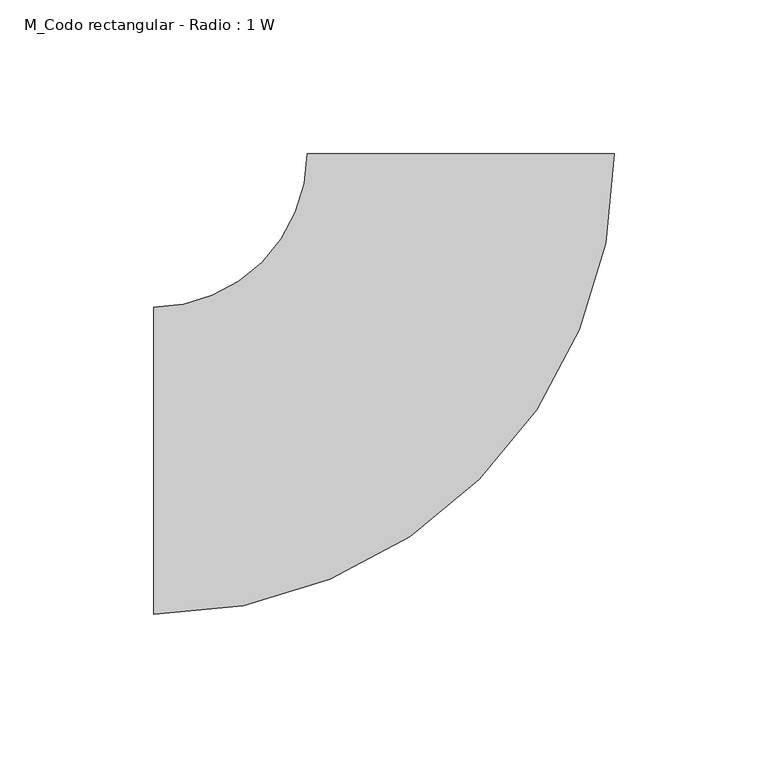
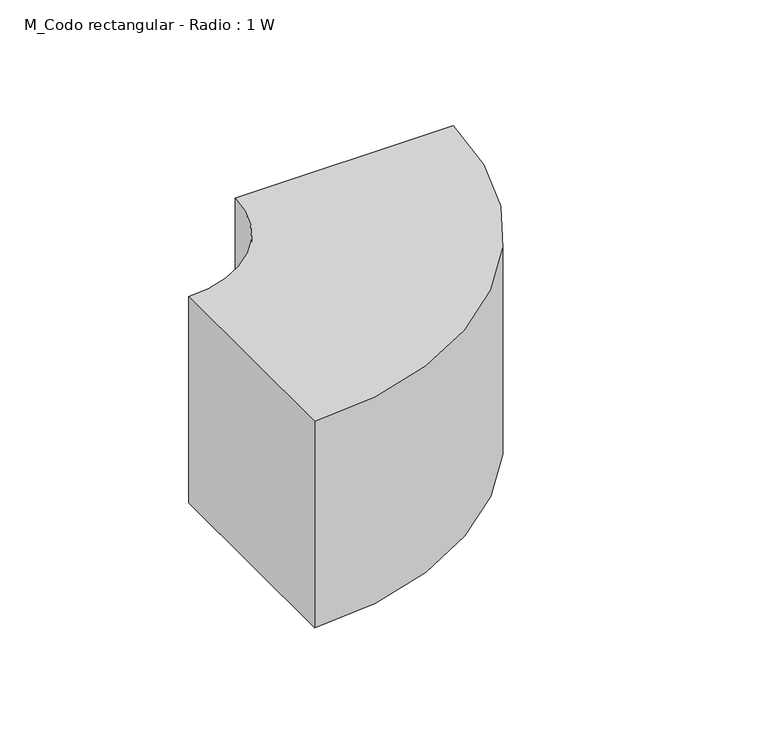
"""IFC4 building model written with IfcOpenShell, lengths in millimetres: duct fitting geometry, M_Codo rectangular - Radio : 1 W."""

from ifc_helpers import new_model, si_unit, point, frame, frame_2d, origin, place, context, project, spatial, polyline, circle_curve, trimmed, segment, composite_curve, outline, extrude, source, transform, mapped, element, save


def m_codo_rectangular_radio_1_w_3fb97a60(model_context):
    return source(origin(), model_context, "Body", "SweptSolid", [
        extrude(outline(composite_curve([segment(trimmed(circle_curve(frame_2d((-100.0, 100.0)), 150.0), [point((50.0, 100.0))], [point((-100.0, -50.0))], False, "CARTESIAN"), True, "CONTINUOUS"), segment(polyline([(-100.0, -50.0), (-100.0, 50.0)]), True, "CONTINUOUS"), segment(trimmed(circle_curve(frame_2d((-100.0, 100.0)), 50.0), [point((-100.0, 50.0))], [point((-50.0, 100.0))], True, "CARTESIAN"), True, "CONTINUOUS"), segment(polyline([(-50.0, 100.0), (50.0, 100.0)]), True, "CONTINUOUS")], self_intersect=False)), frame((0.0, 0.0, -50.0), z_axis=(0.0, 0.0, 1.0), x_axis=(1.0, 0.0, 0.0)), (0.0, 0.0, 1.0), 100.0),
    ])


if __name__ == "__main__":
    model = new_model("IFC4")
    model_context = context("Model", 3, world=origin())
    ifc_project = project(units=[si_unit("LENGTHUNIT", "METRE", prefix="MILLI")], contexts=[model_context])
    site = spatial("IfcSite", under=ifc_project)
    building = spatial("IfcBuilding", under=site)
    placement = place(None, origin())
    m_codo_rectangular_radio_1_w_shape = m_codo_rectangular_radio_1_w_3fb97a60(model_context)
    element("IfcDuctFitting", 1, ObjectType="M_Codo rectangular - Radio : 1 W", at=placement, inside=building, context=model_context, shape_type="MappedRepresentation", body=[
        mapped(m_codo_rectangular_radio_1_w_shape, transform((0.0, 0.0, 0.0), x_axis=(1.0, 0.0, 0.0), y_axis=(0.0, 1.0, 0.0), z_axis=(0.0, 0.0, 1.0))),
    ])
    save(model, "model.ifc")
